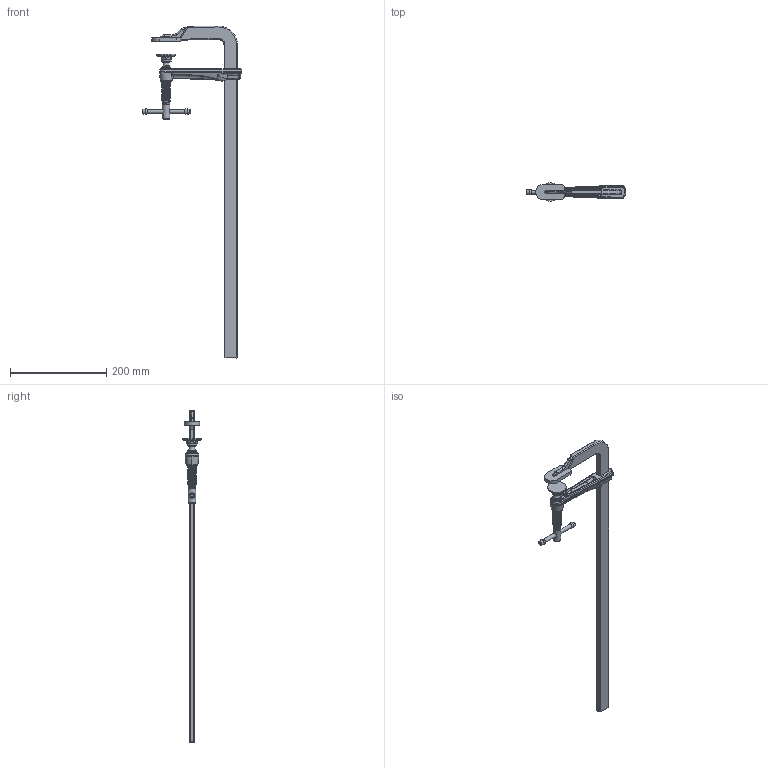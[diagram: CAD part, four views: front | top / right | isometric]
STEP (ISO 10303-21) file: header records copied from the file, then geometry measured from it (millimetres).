
FILE_DESCRIPTION( ('This file contains a STEP AP42 implementation' ,'as created by ZW3D STEP Interface translator.') ,'2;1' );
FILE_NAME( 'GZ60K.stp' ,'20 630.141556', (''), ('ZWCAD Software Co.'), 'Version 1.0', 'ZW3D to STEP translator', '' );
FILE_SCHEMA(('AUTOMOTIVE_DESIGN'));
Length unit declared in the file: millimetre
Products named in the file (9): 0; GZ60K; GZ60_Festbügel_28x11; Gb_GZ40K-kp; 3007805_Gleitbuegel_28_120; 3100121e_Spindel kpl Gr6K; 3000036b_Knebelsp_Tr18x5; 3000074b_Knebel Gr20; 3101158c_DruckplGr3Awk
Assembly tree (7 placements, depth 4):
  0
  GZ60K
    GZ60_Festbügel_28x11
    Gb_GZ40K-kp
      3007805_Gleitbuegel_28_120
      3100121e_Spindel kpl Gr6K
        3000036b_Knebelsp_Tr18x5
        3000074b_Knebel Gr20
      3101158c_DruckplGr3Awk
Bounding box: 207.48 x 38.5 x 689.84 mm (x, y, z)
Volume: 337856 mm3; surface area: 95025.4 mm2
Topology: 7 solids, 7 shells, 424 faces, 1017 edges, 614 vertices
Faces by surface type: bspline 424
Entity records: 95671 total; most frequent: CARTESIAN_POINT 89147, ORIENTED_EDGE 2028, EDGE_CURVE 1014, B_SPLINE_CURVE_WITH_KNOTS 730, VERTEX_POINT 614, EDGE_LOOP 440, FACE_OUTER_BOUND 424, ADVANCED_FACE 424
